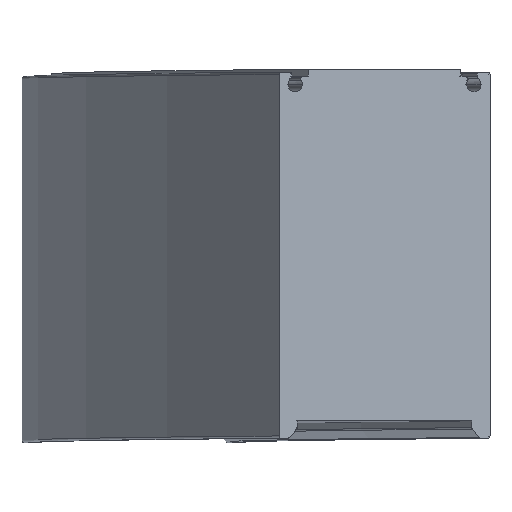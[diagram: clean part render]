
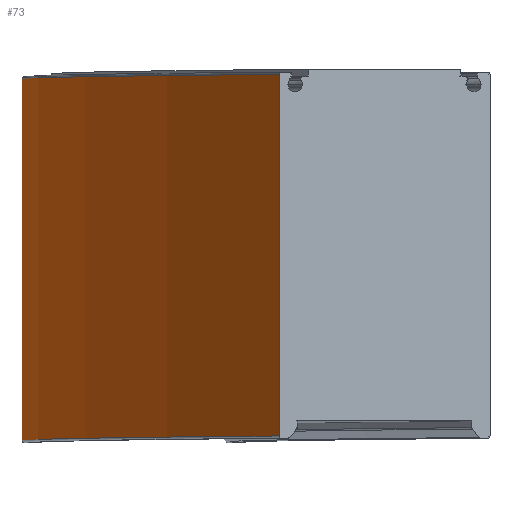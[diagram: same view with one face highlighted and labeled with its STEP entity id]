
A CAD part, top view. The second image highlights one B-rep face of the part: STEP entity #73.
In plain terms, the highlighted cylindrical face has radius 2923.5 mm (diameter 5847 mm), a partial arc.
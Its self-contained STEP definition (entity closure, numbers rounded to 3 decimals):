
#26 = CARTESIAN_POINT ( 'NONE',  ( -23.5, 79.5, 0. ) ) ;
#57 = VERTEX_POINT ( 'NONE', #26 ) ;
#73 = ADVANCED_FACE ( 'NONE', ( #678 ), #461, .T. ) ;
#248 = CIRCLE ( 'NONE', #1406, 2923.5 ) ;
#256 = ORIENTED_EDGE ( 'NONE', *, *, #1569, .F. ) ;
#283 = CARTESIAN_POINT ( 'NONE',  ( 2900., 0., 0. ) ) ;
#387 = LINE ( 'NONE', #1565, #1422 ) ;
#392 = AXIS2_PLACEMENT_3D ( 'NONE', #1416, #890, #1537 ) ;
#444 = ORIENTED_EDGE ( 'NONE', *, *, #594, .F. ) ;
#461 = CYLINDRICAL_SURFACE ( 'NONE', #938, 2923.5 ) ;
#574 = CARTESIAN_POINT ( 'NONE',  ( 32.674, 79.5, 570.347 ) ) ;
#594 = EDGE_CURVE ( 'NONE', #1112, #700, #1013, .T. ) ;
#678 = FACE_OUTER_BOUND ( 'NONE', #1612, .T. ) ;
#700 = VERTEX_POINT ( 'NONE', #889 ) ;
#739 = EDGE_CURVE ( 'NONE', #998, #700, #248, .T. ) ;
#774 = EDGE_CURVE ( 'NONE', #57, #998, #387, .T. ) ;
#782 = CARTESIAN_POINT ( 'NONE',  ( 2900., 0.5, 0. ) ) ;
#883 = DIRECTION ( 'NONE',  ( 0., -1., 0. ) ) ;
#889 = CARTESIAN_POINT ( 'NONE',  ( 32.674, 0.5, 570.347 ) ) ;
#890 = DIRECTION ( 'NONE',  ( 0., 1., 0. ) ) ;
#938 = AXIS2_PLACEMENT_3D ( 'NONE', #283, #1155, #1535 ) ;
#954 = DIRECTION ( 'NONE',  ( 0., -1., 0. ) ) ;
#998 = VERTEX_POINT ( 'NONE', #1616 ) ;
#1013 = LINE ( 'NONE', #1636, #1068 ) ;
#1068 = VECTOR ( 'NONE', #883, 1000. ) ;
#1112 = VERTEX_POINT ( 'NONE', #574 ) ;
#1155 = DIRECTION ( 'NONE',  ( 0., 1., 0. ) ) ;
#1158 = DIRECTION ( 'NONE',  ( -1., 0., 0. ) ) ;
#1282 = DIRECTION ( 'NONE',  ( 0., 1., 0. ) ) ;
#1392 = ORIENTED_EDGE ( 'NONE', *, *, #774, .T. ) ;
#1406 = AXIS2_PLACEMENT_3D ( 'NONE', #782, #1282, #1158 ) ;
#1416 = CARTESIAN_POINT ( 'NONE',  ( 2900., 79.5, 0. ) ) ;
#1422 = VECTOR ( 'NONE', #954, 1000. ) ;
#1430 = CIRCLE ( 'NONE', #392, 2923.5 ) ;
#1532 = ORIENTED_EDGE ( 'NONE', *, *, #739, .T. ) ;
#1535 = DIRECTION ( 'NONE',  ( 0., 0., 1. ) ) ;
#1537 = DIRECTION ( 'NONE',  ( -1., 0., 0. ) ) ;
#1565 = CARTESIAN_POINT ( 'NONE',  ( -23.5, 79.5, 0. ) ) ;
#1569 = EDGE_CURVE ( 'NONE', #57, #1112, #1430, .T. ) ;
#1612 = EDGE_LOOP ( 'NONE', ( #1532, #444, #256, #1392 ) ) ;
#1616 = CARTESIAN_POINT ( 'NONE',  ( -23.5, 0.5, 0. ) ) ;
#1636 = CARTESIAN_POINT ( 'NONE',  ( 32.674, 79.5, 570.347 ) ) ;
